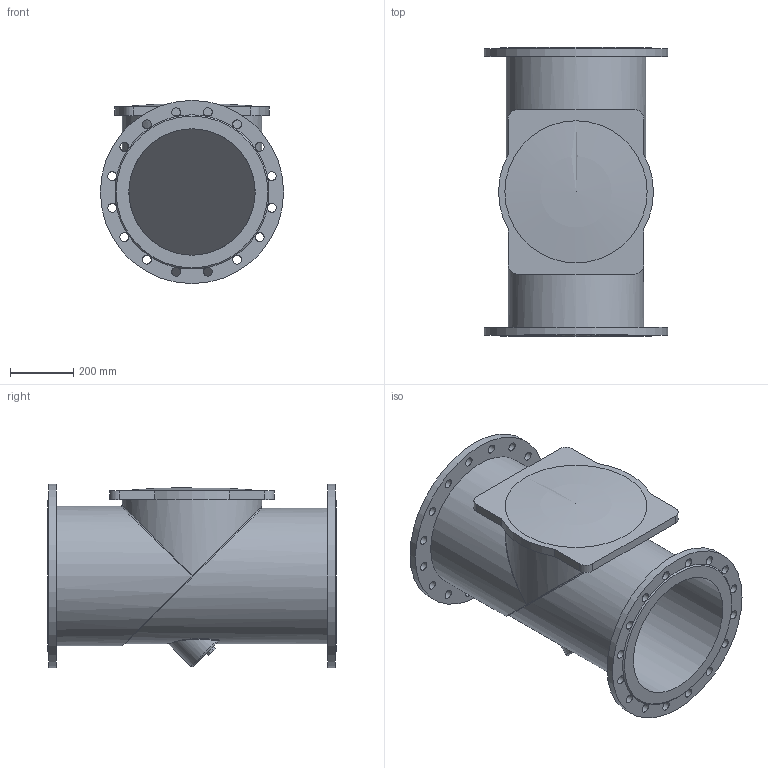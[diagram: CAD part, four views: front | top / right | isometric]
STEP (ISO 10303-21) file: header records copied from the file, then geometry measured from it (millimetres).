
FILE_DESCRIPTION(('STEP AP203'), '1');
FILE_NAME('Êëàïàí îäíîñòâîð÷àòûé îáðàòíûé ôëàíöåâûé 015F.Z DN400 PN10', '', ('UNSPECIFIED'), ('UNSPECIFIED'), 'ASCON STEP Converter 1.6', 'ASCON Math Kernel', '');
FILE_SCHEMA(('CONFIG_CONTROL_DESIGN'));
Length unit declared in the file: millimetre
Bounding box: 580 x 914 x 580 mm (x, y, z)
Volume: 41285860.9 mm3; surface area: 3694230.4 mm2
Topology: 1 solids, 2 shells, 86 faces, 303 edges, 198 vertices
Faces by surface type: cylinder 49, plane 27, bspline 6, cone 2, torus 1, sphere 1
Full cylindrical faces by diameter (mm): 28 x32, 400 x2, 415 x1, 428 x1, 443 x2, 580 x2
Entity records: 6730 total; most frequent: CARTESIAN_POINT 3467, DIRECTION 522, ORIENTED_EDGE 512, EDGE_CURVE 256, AXIS2_PLACEMENT_3D 240, VERTEX_POINT 197, EDGE_LOOP 173, CIRCLE 159
